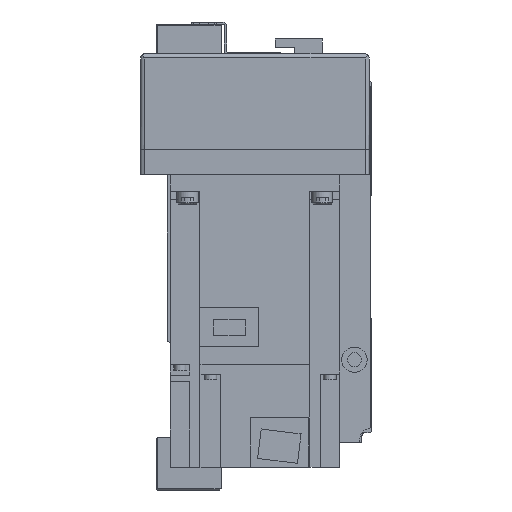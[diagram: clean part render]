
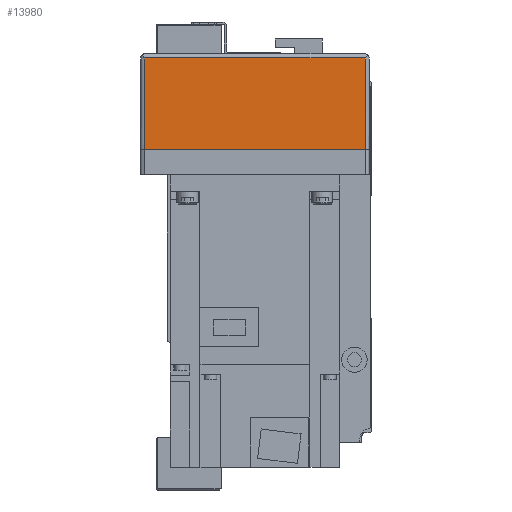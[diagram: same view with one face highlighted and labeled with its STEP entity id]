
A CAD part, left-side view. The second image highlights one B-rep face of the part: STEP entity #13980.
In plain terms, the highlighted planar face has unit normal (-1, 0, 0).
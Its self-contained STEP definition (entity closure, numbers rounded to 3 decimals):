
#2518=ORIENTED_EDGE('',*,*,#5800,.T.);
#2519=ORIENTED_EDGE('',*,*,#5728,.T.);
#2520=ORIENTED_EDGE('',*,*,#5801,.F.);
#2521=ORIENTED_EDGE('',*,*,#5740,.F.);
#5728=EDGE_CURVE('',#7518,#7521,#8986,.T.);
#5740=EDGE_CURVE('',#7528,#7530,#8991,.T.);
#5800=EDGE_CURVE('',#7528,#7518,#9033,.T.);
#5801=EDGE_CURVE('',#7530,#7521,#9034,.T.);
#7518=VERTEX_POINT('',#21875);
#7521=VERTEX_POINT('',#21881);
#7528=VERTEX_POINT('',#21904);
#7530=VERTEX_POINT('',#21907);
#8986=LINE('',#21882,#10299);
#8991=LINE('',#21906,#10304);
#9033=LINE('',#22030,#10346);
#9034=LINE('',#22031,#10347);
#10299=VECTOR('',#17467,1000.);
#10304=VECTOR('',#17494,1000.);
#10346=VECTOR('',#17614,1000.);
#10347=VECTOR('',#17615,1000.);
#11455=EDGE_LOOP('',(#2518,#2519,#2520,#2521));
#12506=FACE_BOUND('',#11455,.T.);
#13389=PLANE('',#15025);
#13980=ADVANCED_FACE('',(#12506),#13389,.T.);
#15025=AXIS2_PLACEMENT_3D('',#22029,#17612,#17613);
#17467=DIRECTION('',(0.,0.,1.));
#17494=DIRECTION('',(0.,0.,1.));
#17612=DIRECTION('',(-1.,0.,0.));
#17613=DIRECTION('',(0.,0.,1.));
#17614=DIRECTION('',(0.,-1.,0.));
#17615=DIRECTION('',(0.,-1.,0.));
#21875=CARTESIAN_POINT('',(-230.,-52.,-55.));
#21881=CARTESIAN_POINT('',(-230.,-52.,-12.));
#21882=CARTESIAN_POINT('',(-230.,-52.,-57.));
#21904=CARTESIAN_POINT('',(-230.,52.,-55.));
#21906=CARTESIAN_POINT('',(-230.,52.,-57.));
#21907=CARTESIAN_POINT('',(-230.,52.,-12.));
#22029=CARTESIAN_POINT('',(-230.,52.,-57.));
#22030=CARTESIAN_POINT('',(-230.,54.,-55.));
#22031=CARTESIAN_POINT('',(-230.,52.,-12.));
